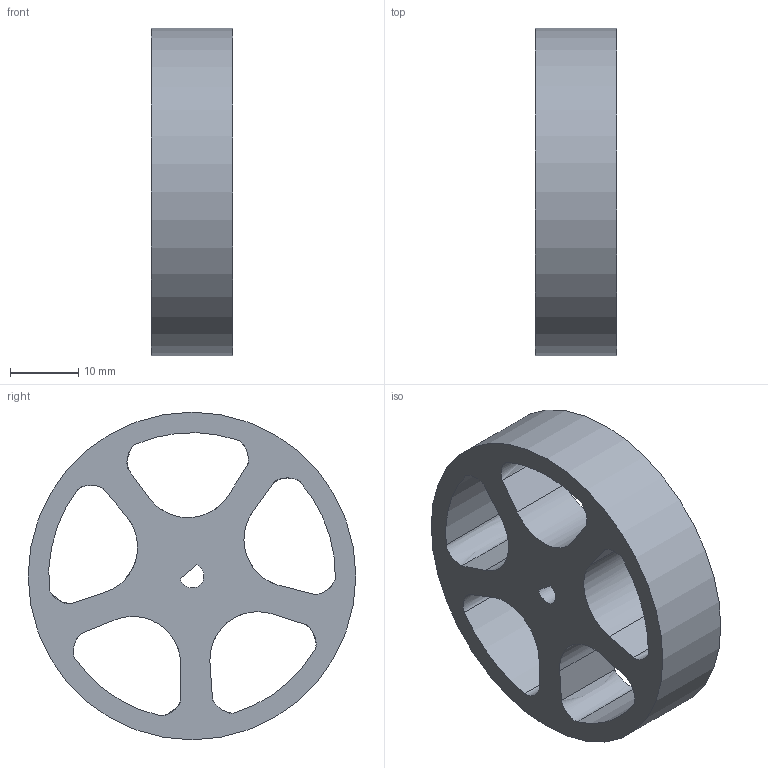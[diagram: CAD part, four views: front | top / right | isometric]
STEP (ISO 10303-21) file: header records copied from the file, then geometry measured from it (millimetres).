
FILE_DESCRIPTION(/* description */ (''),/* implementation_level */ '2;1');
FILE_NAME(/* name */ 'rueda2.step',/* time_stamp */ '2026-03-09T00:25:43+01:00',/* author */ (''),/* organization */ (''),/* preprocessor_version */ 'ST-DEVELOPER v20.1',/* originating_system */ 'Autodesk Translation Framework v14.24.0.0',/* authorisation */ '');
FILE_SCHEMA (('AUTOMOTIVE_DESIGN { 1 0 10303 214 3 1 1 }'));
Length unit declared in the file: millimetre
Products named in the file (1): Flanders (v3~recovered)
Bounding box: 12 x 48 x 48 mm (x, y, z)
Volume: 11071 mm3; surface area: 6550.3 mm2
Topology: 1 solids, 1 shells, 43 faces, 125 edges, 80 vertices
Faces by surface type: bspline 16, plane 14, cylinder 12, torus 1
Full cylindrical faces by diameter (mm): 48 x1
Entity records: 2252 total; most frequent: CARTESIAN_POINT 1190, ORIENTED_EDGE 250, DIRECTION 151, EDGE_CURVE 125, VERTEX_POINT 80, B_SPLINE_CURVE_WITH_KNOTS 65, AXIS2_PLACEMENT_3D 63, EDGE_LOOP 51
